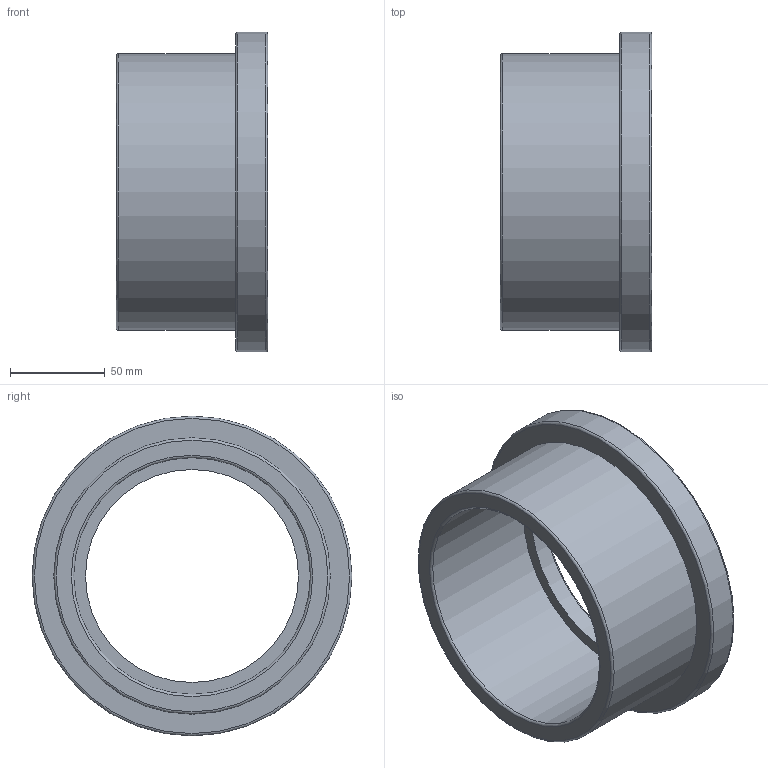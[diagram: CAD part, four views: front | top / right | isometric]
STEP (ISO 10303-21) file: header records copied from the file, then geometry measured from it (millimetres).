
FILE_DESCRIPTION(/* description */ ('PLASSON FLANGE AD.+O-RING-CE 125'),/* implementation_level */ '2;1');
FILE_NAME(/* name */ 'C:\Dropbox\KIMPROJECTS-Inventor\99-16-3568-Processing\PVC Catalog 2017\055000\055000125.ipt.stp',/* time_stamp */ '2017-12-07T16:04:44+02:00',/* author */ ('KIM'),/* organization */ (''),/* preprocessor_version */ 'ST-DEVELOPER v15.6',/* originating_system */ 'Autodesk Inventor 2015',/* authorisation */ '');
FILE_SCHEMA (('AUTOMOTIVE_DESIGN { 1 0 10303 214 3 1 1 }'));
Length unit declared in the file: millimetre
Products named in the file (1): 055000125
Bounding box: 80 x 169 x 169 mm (x, y, z)
Volume: 460086.3 mm3; surface area: 96233.8 mm2
Topology: 1 solids, 1 shells, 21 faces, 36 edges, 21 vertices
Faces by surface type: torus 9, plane 6, cylinder 6
Full cylindrical faces by diameter (mm): 112.5 x1, 125 x1, 132.275 x1, 146 x1, 149.225 x1, 169 x1
Entity records: 452 total; most frequent: DIRECTION 86, CARTESIAN_POINT 64, AXIS2_PLACEMENT_3D 43, EDGE_LOOP 42, ORIENTED_EDGE 42, FACE_BOUND 21, FACE_OUTER_BOUND 21, CIRCLE 21
